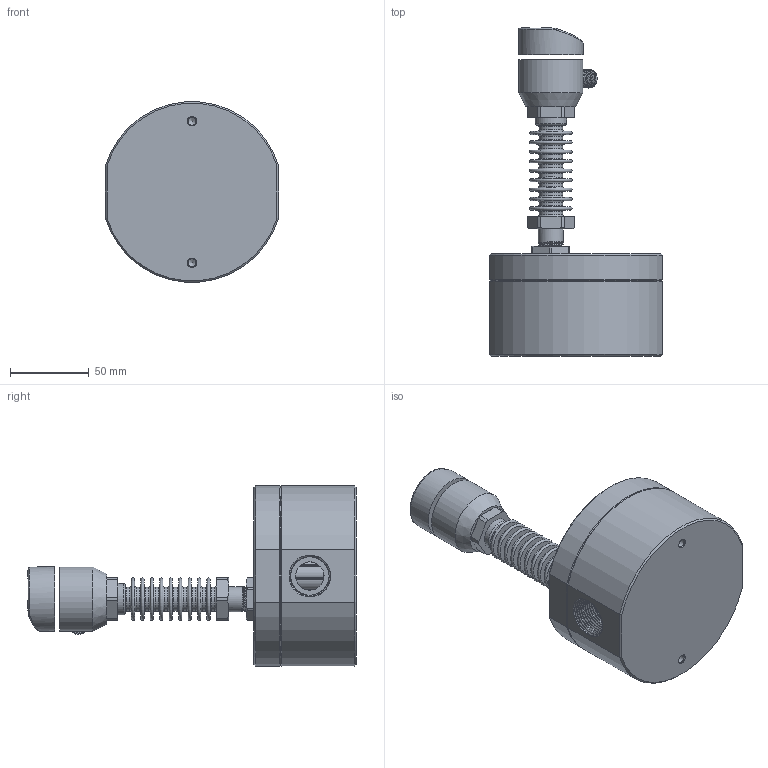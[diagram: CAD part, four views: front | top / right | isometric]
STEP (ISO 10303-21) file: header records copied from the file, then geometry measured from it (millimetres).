
FILE_DESCRIPTION( (''), '2;1');
FILE_NAME( 'QZKA_M15_high-temp.step', '2024-06-05T08:46:26+08:00', (''), (''), '', '', '');
FILE_SCHEMA (('AUTOMOTIVE_DESIGN { 1 0 10303 214 3 1 1 1 }'));
Products named in the file (1): QZKA M15_high-temp
Bounding box: 110 x 208.8 x 114.58 mm (x, y, z)
Volume: 623200.5 mm3; surface area: 154344.2 mm2
Topology: 17 solids, 19 shells, 997 faces, 2277 edges, 1403 vertices
Faces by surface type: plane 352, cylinder 332, cone 171, torus 84, bspline 50, sphere 6, extrusion 2
Full cylindrical faces by diameter (mm): 1 x5, 2.7 x4, 5 x10, 6 x6, 6.8 x8, 7.5 x4, 7.76 x8, 8.4 x1, 9 x8, 9.7 x1, 9.8 x1, 10.1 x1, 11.6 x1, 12 x4, 12.5 x1, 13 x8, 14 x10, 15 x10, 15.9 x1, 17 x3, 18 x4, 19.5 x2, 20 x1, 23 x3, 26 x4, 26.1 x1, 37 x1, 41 x2
Entity records: 48336 total; most frequent: CARTESIAN_POINT 25805, DIRECTION 4474, ORIENTED_EDGE 3876, EDGE_CURVE 1938, AXIS2_PLACEMENT_3D 1879, EDGE_LOOP 1347, VERTEX_POINT 1337, ADVANCED_FACE 992
